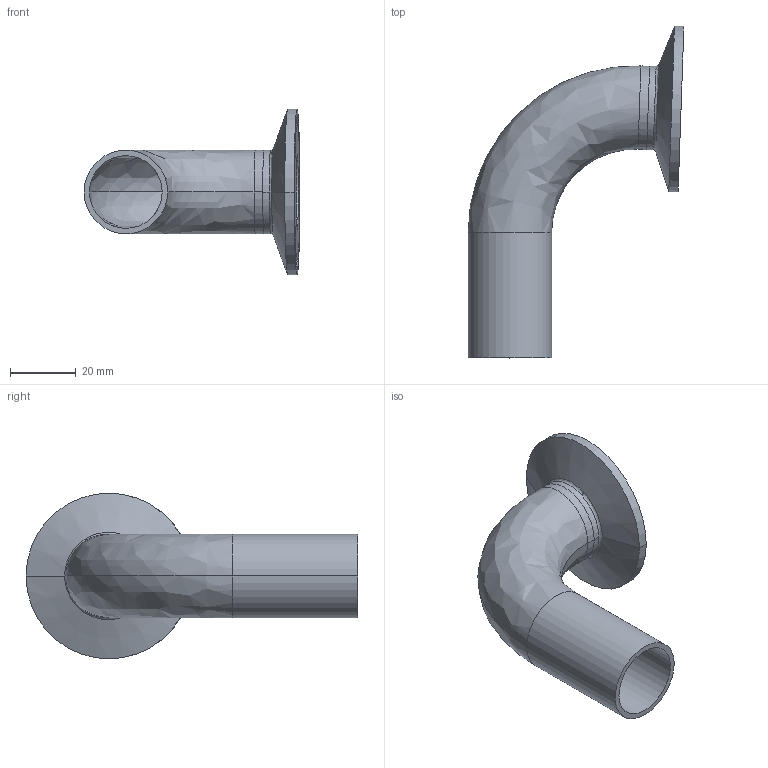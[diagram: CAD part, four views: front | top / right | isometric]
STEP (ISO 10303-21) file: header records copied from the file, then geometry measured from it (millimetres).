
FILE_DESCRIPTION (( 'STEP AP214' ), '1' );
FILE_NAME ('TE2C926L1.0-...STEP', '2016-05-22T11:02:24', ( 'eran' ), ( '' ), 'SwSTEP 2.0', 'SolidWorks 2016', '' );
FILE_SCHEMA (( 'AUTOMOTIVE_DESIGN' ));
Length unit declared in the file: millimetre
Products named in the file (1): TE2C926L1.0-..
Bounding box: 65.65 x 100.97 x 50.39 mm (x, y, z)
Volume: 20845.5 mm3; surface area: 20173.9 mm2
Topology: 2 solids, 2 shells, 39 faces, 92 edges, 58 vertices
Faces by surface type: bspline 14, cylinder 14, cone 6, plane 5
Entity records: 1745 total; most frequent: CARTESIAN_POINT 802, DIRECTION 204, ORIENTED_EDGE 184, AXIS2_PLACEMENT_3D 92, EDGE_CURVE 92, CIRCLE 66, VERTEX_POINT 58, EDGE_LOOP 44
